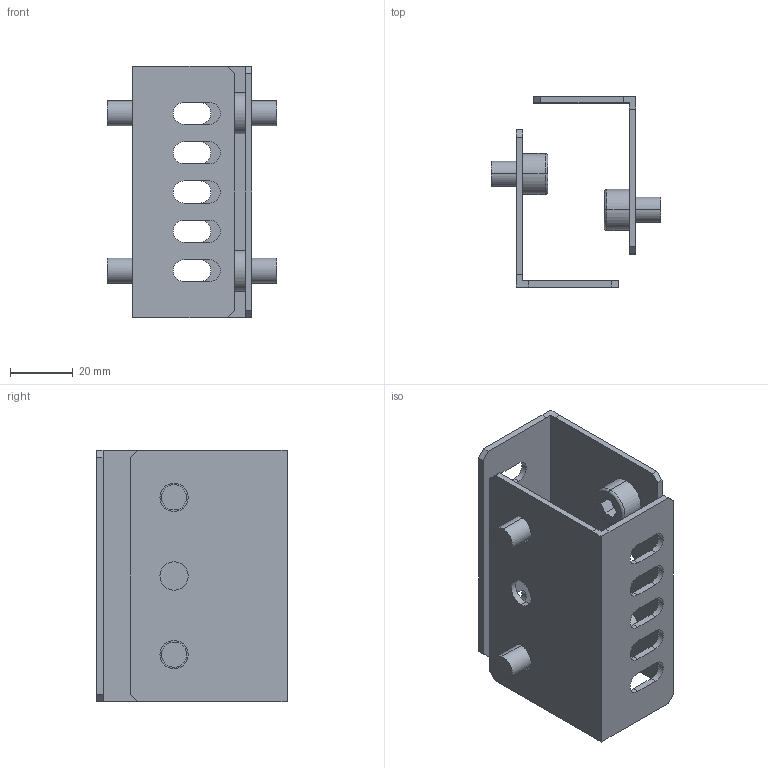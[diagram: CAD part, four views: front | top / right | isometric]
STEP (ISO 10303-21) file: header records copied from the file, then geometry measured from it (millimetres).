
FILE_DESCRIPTION (( 'STEP AP214' ), '1' );
FILE_NAME ('FO-00-BCU Êðîíøòåéí ïðèñîåäèíèòåëüíîãî óçëà (2 øò.óïàê.).STEP', '2025-08-06T10:28:03', ( '' ), ( '' ), 'SwSTEP 2.0', 'SolidWorks 2023', '' );
FILE_SCHEMA (( 'AUTOMOTIVE_DESIGN' ));
Length unit declared in the file: millimetre
Products named in the file (4): Кронштейн присоединительного узла; FO-00-BCU Кронштейн присоединительного узла; Винт М8х10 IEK_Винт A2 М8х25 DIN 912; FO-00-BCU Кронштейн присоединительного узла (2 шт.упак.)
Assembly tree (5 placements, depth 3):
  FO-00-BCU Кронштейн присоединительного узла (2 шт.упак.)
    FO-00-BCU Кронштейн присоединительного узла  x2
      Кронштейн присоединительного узла
      Винт М8х10 IEK_Винт A2 М8х25 DIN 912
Bounding box: 53.98 x 60.59 x 80 mm (x, y, z)
Volume: 28800.5 mm3; surface area: 29073.7 mm2
Topology: 6 solids, 6 shells, 158 faces, 406 edges, 268 vertices
Faces by surface type: plane 92, cylinder 58, torus 8
Entity records: 2143 total; most frequent: DIRECTION 367, CARTESIAN_POINT 353, ORIENTED_EDGE 338, EDGE_CURVE 169, AXIS2_PLACEMENT_3D 126, LINE 115, VECTOR 115, VERTEX_POINT 112
